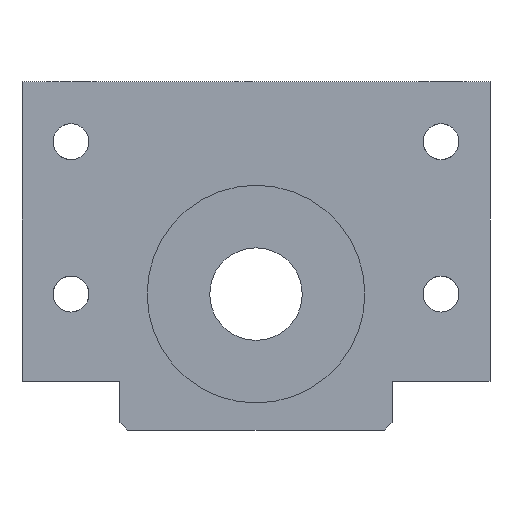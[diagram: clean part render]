
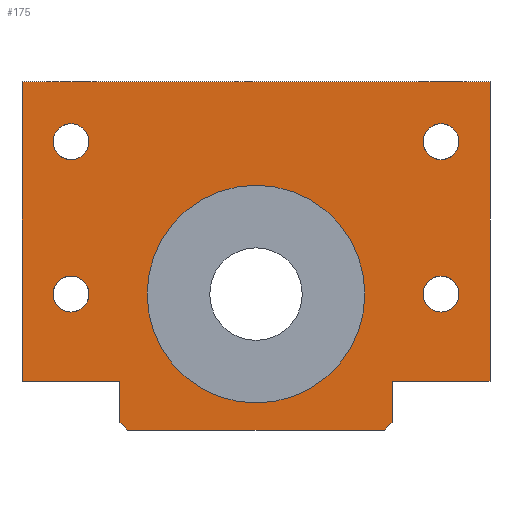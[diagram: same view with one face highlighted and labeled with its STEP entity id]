
A CAD part, left-side view. The second image highlights one B-rep face of the part: STEP entity #175.
In plain terms, the highlighted planar face has unit normal (-1, 0, 0).
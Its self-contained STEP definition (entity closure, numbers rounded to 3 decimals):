
#63=LINE('',#913,#93);
#64=LINE('',#917,#94);
#65=LINE('',#919,#95);
#66=LINE('',#921,#96);
#67=LINE('',#923,#97);
#68=LINE('',#925,#98);
#69=LINE('',#927,#99);
#70=LINE('',#929,#100);
#71=LINE('',#931,#101);
#72=LINE('',#933,#102);
#93=VECTOR('',#702,1.);
#94=VECTOR('',#707,1.);
#95=VECTOR('',#708,1.);
#96=VECTOR('',#709,1.);
#97=VECTOR('',#710,1.);
#98=VECTOR('',#711,1.);
#99=VECTOR('',#712,1.);
#100=VECTOR('',#713,1.);
#101=VECTOR('',#714,1.);
#102=VECTOR('',#715,1.);
#152=PLANE('',#626);
#175=ADVANCED_FACE('',(#237,#238,#239,#240,#241,#242),#152,.T.);
#237=FACE_BOUND('',#302,.T.);
#238=FACE_BOUND('',#303,.T.);
#239=FACE_BOUND('',#304,.T.);
#240=FACE_BOUND('',#305,.T.);
#241=FACE_BOUND('',#306,.T.);
#242=FACE_BOUND('',#307,.T.);
#302=EDGE_LOOP('',(#377,#378,#379,#380,#381,#382,#383,#384,#385,#386));
#303=EDGE_LOOP('',(#387));
#304=EDGE_LOOP('',(#388));
#305=EDGE_LOOP('',(#389));
#306=EDGE_LOOP('',(#390));
#307=EDGE_LOOP('',(#391));
#377=ORIENTED_EDGE('',*,*,#537,.T.);
#378=ORIENTED_EDGE('',*,*,#538,.T.);
#379=ORIENTED_EDGE('',*,*,#539,.T.);
#380=ORIENTED_EDGE('',*,*,#540,.T.);
#381=ORIENTED_EDGE('',*,*,#541,.T.);
#382=ORIENTED_EDGE('',*,*,#542,.T.);
#383=ORIENTED_EDGE('',*,*,#543,.T.);
#384=ORIENTED_EDGE('',*,*,#544,.T.);
#385=ORIENTED_EDGE('',*,*,#545,.T.);
#386=ORIENTED_EDGE('',*,*,#535,.T.);
#387=ORIENTED_EDGE('',*,*,#546,.F.);
#388=ORIENTED_EDGE('',*,*,#547,.F.);
#389=ORIENTED_EDGE('',*,*,#527,.F.);
#390=ORIENTED_EDGE('',*,*,#528,.F.);
#391=ORIENTED_EDGE('',*,*,#548,.F.);
#477=VERTEX_POINT('',#892);
#478=VERTEX_POINT('',#895);
#483=VERTEX_POINT('',#908);
#485=VERTEX_POINT('',#912);
#487=VERTEX_POINT('',#918);
#488=VERTEX_POINT('',#920);
#489=VERTEX_POINT('',#922);
#490=VERTEX_POINT('',#924);
#491=VERTEX_POINT('',#926);
#492=VERTEX_POINT('',#928);
#493=VERTEX_POINT('',#930);
#494=VERTEX_POINT('',#932);
#495=VERTEX_POINT('',#935);
#496=VERTEX_POINT('',#937);
#497=VERTEX_POINT('',#939);
#527=EDGE_CURVE('GENERATED CIRCLE',#477,#477,#583,.T.);
#528=EDGE_CURVE('GENERATED CIRCLE',#478,#478,#584,.T.);
#535=EDGE_CURVE('LINE',#483,#485,#63,.T.);
#537=EDGE_CURVE('LINE',#485,#487,#64,.T.);
#538=EDGE_CURVE('LINE',#487,#488,#65,.T.);
#539=EDGE_CURVE('LINE',#488,#489,#66,.T.);
#540=EDGE_CURVE('LINE',#489,#490,#67,.T.);
#541=EDGE_CURVE('LINE',#490,#491,#68,.T.);
#542=EDGE_CURVE('LINE',#491,#492,#69,.T.);
#543=EDGE_CURVE('LINE',#492,#493,#70,.T.);
#544=EDGE_CURVE('LINE',#493,#494,#71,.T.);
#545=EDGE_CURVE('LINE',#494,#483,#72,.T.);
#546=EDGE_CURVE('GENERATED CIRCLE',#495,#495,#589,.T.);
#547=EDGE_CURVE('GENERATED CIRCLE',#496,#496,#590,.T.);
#548=EDGE_CURVE('GENERATED CIRCLE',#497,#497,#591,.T.);
#583=CIRCLE('',#611,3.3);
#584=CIRCLE('',#613,3.3);
#589=CIRCLE('',#623,3.3);
#590=CIRCLE('',#624,3.3);
#591=CIRCLE('',#625,20.);
#611=AXIS2_PLACEMENT_3D('',#891,#679,#680);
#613=AXIS2_PLACEMENT_3D('',#894,#683,#684);
#623=AXIS2_PLACEMENT_3D('',#934,#716,#717);
#624=AXIS2_PLACEMENT_3D('',#936,#718,#719);
#625=AXIS2_PLACEMENT_3D('',#938,#720,#721);
#626=AXIS2_PLACEMENT_3D('',#940,#722,#723);
#679=DIRECTION('',(-1.,0.,0.));
#680=DIRECTION('',(0.,0.,1.));
#683=DIRECTION('',(-1.,0.,0.));
#684=DIRECTION('',(0.,0.,1.));
#702=DIRECTION('',(0.,1.,0.));
#707=DIRECTION('',(0.,0.,-1.));
#708=DIRECTION('',(0.,-1.,0.));
#709=DIRECTION('',(0.,0.,-1.));
#710=DIRECTION('',(0.,-0.707,-0.707));
#711=DIRECTION('',(0.,-1.,0.));
#712=DIRECTION('',(0.,-0.707,0.707));
#713=DIRECTION('',(0.,0.,1.));
#714=DIRECTION('',(0.,-1.,0.));
#715=DIRECTION('',(0.,0.,1.));
#716=DIRECTION('',(-1.,0.,0.));
#717=DIRECTION('',(0.,0.,1.));
#718=DIRECTION('',(-1.,0.,0.));
#719=DIRECTION('',(0.,0.,1.));
#720=DIRECTION('',(-1.,0.,0.));
#721=DIRECTION('',(0.,0.,1.));
#722=DIRECTION('',(-1.,0.,0.));
#723=DIRECTION('',(0.,-1.,0.));
#891=CARTESIAN_POINT('',(8.5,-34.,-11.));
#892=CARTESIAN_POINT('',(8.5,-34.,-7.7));
#894=CARTESIAN_POINT('',(8.5,-34.,-39.));
#895=CARTESIAN_POINT('',(8.5,-34.,-35.7));
#908=CARTESIAN_POINT('',(8.5,-43.,0.));
#912=CARTESIAN_POINT('',(8.5,43.,0.));
#913=CARTESIAN_POINT('',(8.5,0.,0.));
#917=CARTESIAN_POINT('',(8.5,43.,-27.5));
#918=CARTESIAN_POINT('',(8.5,43.,-55.));
#919=CARTESIAN_POINT('',(8.5,34.,-55.));
#920=CARTESIAN_POINT('',(8.5,25.,-55.));
#921=CARTESIAN_POINT('',(8.5,25.,-58.793));
#922=CARTESIAN_POINT('',(8.5,25.,-62.586));
#923=CARTESIAN_POINT('',(8.5,24.293,-63.293));
#924=CARTESIAN_POINT('',(8.5,23.586,-64.));
#925=CARTESIAN_POINT('',(8.5,0.,-64.));
#926=CARTESIAN_POINT('',(8.5,-23.586,-64.));
#927=CARTESIAN_POINT('',(8.5,-24.293,-63.293));
#928=CARTESIAN_POINT('',(8.5,-25.,-62.586));
#929=CARTESIAN_POINT('',(8.5,-25.,-58.793));
#930=CARTESIAN_POINT('',(8.5,-25.,-55.));
#931=CARTESIAN_POINT('',(8.5,-34.,-55.));
#932=CARTESIAN_POINT('',(8.5,-43.,-55.));
#933=CARTESIAN_POINT('',(8.5,-43.,-27.5));
#934=CARTESIAN_POINT('',(8.5,34.,-11.));
#935=CARTESIAN_POINT('',(8.5,34.,-7.7));
#936=CARTESIAN_POINT('',(8.5,34.,-39.));
#937=CARTESIAN_POINT('',(8.5,34.,-35.7));
#938=CARTESIAN_POINT('',(8.5,0.,-39.));
#939=CARTESIAN_POINT('',(8.5,0.,-19.));
#940=CARTESIAN_POINT('',(8.5,0.,0.));
